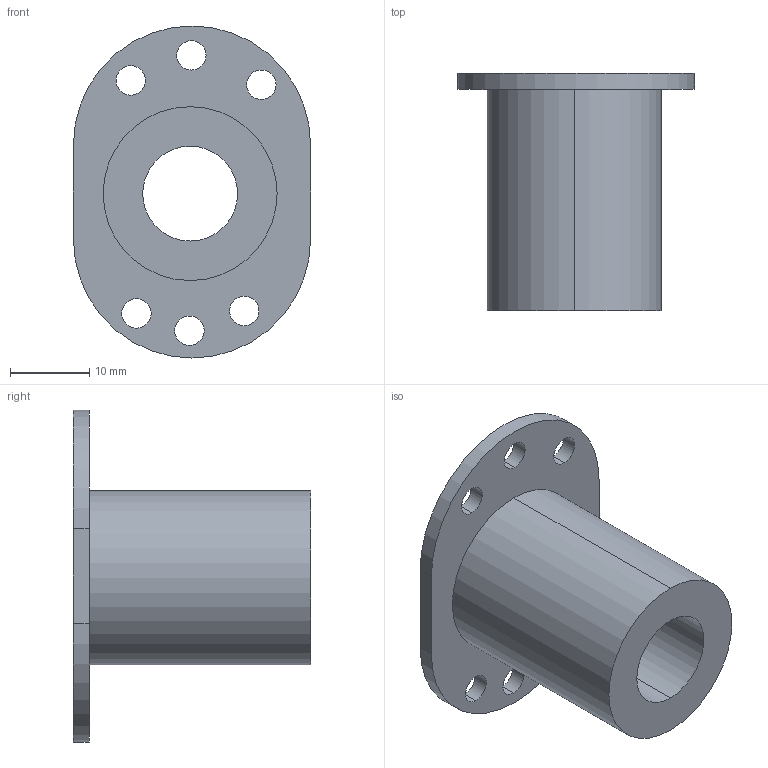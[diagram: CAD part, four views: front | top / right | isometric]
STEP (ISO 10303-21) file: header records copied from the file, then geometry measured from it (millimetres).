
FILE_DESCRIPTION(/* description */ ('STEP AP242 Edition 2','CAx-IF Rec.Pracs.---Representation and Presentation of Product Manufacturing Information (PMI)---4.0---2014-10-13','CAx-IF Rec.Pracs.---3D Tessellated Geometry---0.4---2014-09-14','2;1','CAx-IF Rec.Pracs.---User Defined Attributes---1.5---2016-08-15'),/* implementation_level */ '2;1');
FILE_NAME(/* name */ 'Assembly 1 - Part 11 (1)',/* time_stamp */ '2026-10-08T06:00:13Z',/* author */ (''),/* organization */ (''),/* preprocessor_version */ 'ST-DEVELOPER v20',/* originating_system */ 'ONSHAPE BY PTC INC, 1.221',/* authorisation */ ' ');
FILE_SCHEMA (('AP242_MANAGED_MODEL_BASED_3D_ENGINEERING_MIM_LF { 1 0 10303 442 3 1 4 }'));
Length unit declared in the file: metre
Products named in the file (1): Part 11
Bounding box: 30 x 30 x 42 mm (x, y, z)
Volume: 9253.9 mm3; surface area: 5219.9 mm2
Topology: 1 solids, 1 shells, 23 faces, 62 edges, 42 vertices
Faces by surface type: bspline 23
Entity records: 822 total; most frequent: CARTESIAN_POINT 285, ORIENTED_EDGE 124, DIRECTION 86, EDGE_CURVE 62, VERTEX_POINT 42, AXIS2_PLACEMENT_3D 39, CIRCLE 38, EDGE_LOOP 38
